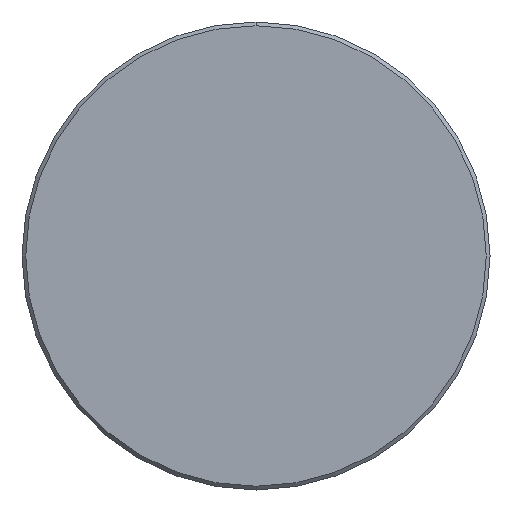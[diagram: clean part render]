
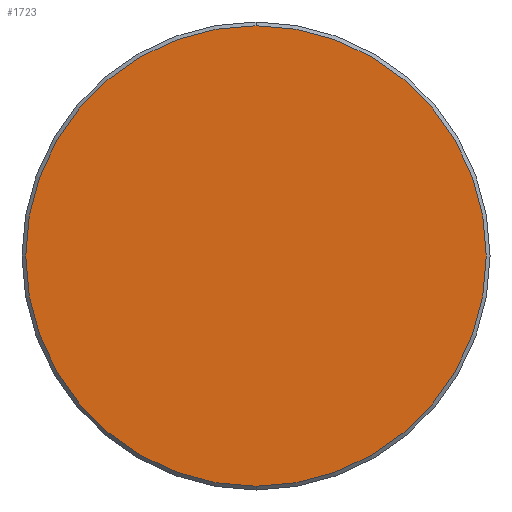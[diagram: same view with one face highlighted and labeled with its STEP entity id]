
A CAD part, front view. The second image highlights one B-rep face of the part: STEP entity #1723.
In plain terms, the highlighted planar face has unit normal (0, -1, 0).
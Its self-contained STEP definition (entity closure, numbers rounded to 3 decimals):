
#9 = EDGE_CURVE ( 'NONE', #74, #1328, #69, .T. ) ;
#35 = ORIENTED_EDGE ( 'NONE', *, *, #9, .T. ) ;
#51 = ORIENTED_EDGE ( 'NONE', *, *, #1223, .T. ) ;
#69 = CIRCLE ( 'NONE', #793, 24.6 ) ;
#74 = VERTEX_POINT ( 'NONE', #1289 ) ;
#282 = CARTESIAN_POINT ( 'NONE',  ( 0., 0., -24.6 ) ) ;
#490 = DIRECTION ( 'NONE',  ( 0., 0., 1. ) ) ;
#600 = AXIS2_PLACEMENT_3D ( 'NONE', #645, #1555, #637 ) ;
#603 = AXIS2_PLACEMENT_3D ( 'NONE', #683, #1081, #1619 ) ;
#637 = DIRECTION ( 'NONE',  ( 0., 0., 1. ) ) ;
#645 = CARTESIAN_POINT ( 'NONE',  ( 0., 0., 0. ) ) ;
#683 = CARTESIAN_POINT ( 'NONE',  ( 0., 0., 0. ) ) ;
#793 = AXIS2_PLACEMENT_3D ( 'NONE', #928, #880, #490 ) ;
#880 = DIRECTION ( 'NONE',  ( 0., -1., 0. ) ) ;
#928 = CARTESIAN_POINT ( 'NONE',  ( 0., 0., 0. ) ) ;
#952 = EDGE_LOOP ( 'NONE', ( #35, #51 ) ) ;
#957 = PLANE ( 'NONE',  #603 ) ;
#1081 = DIRECTION ( 'NONE',  ( 0., 1., 0. ) ) ;
#1202 = FACE_OUTER_BOUND ( 'NONE', #952, .T. ) ;
#1223 = EDGE_CURVE ( 'NONE', #1328, #74, #1501, .T. ) ;
#1289 = CARTESIAN_POINT ( 'NONE',  ( 0., 0., 24.6 ) ) ;
#1328 = VERTEX_POINT ( 'NONE', #282 ) ;
#1501 = CIRCLE ( 'NONE', #600, 24.6 ) ;
#1555 = DIRECTION ( 'NONE',  ( 0., -1., 0. ) ) ;
#1619 = DIRECTION ( 'NONE',  ( 0., 0., 1. ) ) ;
#1723 = ADVANCED_FACE ( 'NONE', ( #1202 ), #957, .F. ) ;
